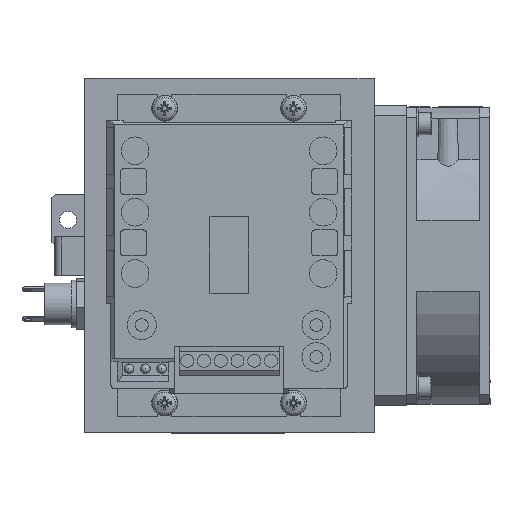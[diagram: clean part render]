
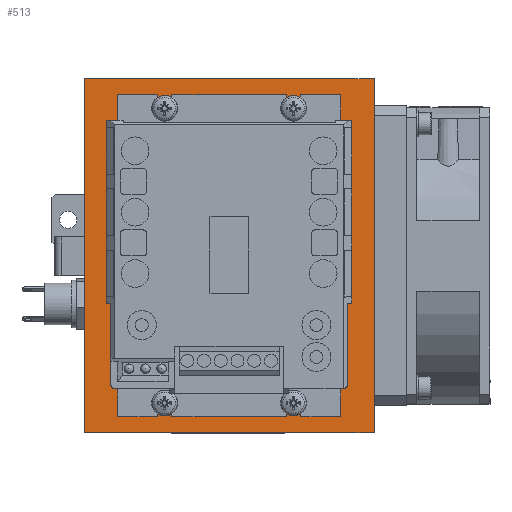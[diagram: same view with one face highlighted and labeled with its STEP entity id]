
A CAD part, top view. The second image highlights one B-rep face of the part: STEP entity #513.
In plain terms, the highlighted planar face has unit normal (0, 0, 1).
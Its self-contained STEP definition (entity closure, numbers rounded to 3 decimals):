
#264=CARTESIAN_POINT('',(0.,-55.,105.));
#265=DIRECTION('',(0.0,0.0,1.0));
#266=DIRECTION('',(1.0,0.0,0.0));
#267=AXIS2_PLACEMENT_3D('',#264,#265,#266);
#268=PLANE('',#267);
#269=CARTESIAN_POINT('',(45.,-55.,105.));
#270=VERTEX_POINT('',#269);
#271=CARTESIAN_POINT('',(45.,55.,105.));
#272=VERTEX_POINT('',#271);
#273=CARTESIAN_POINT('',(45.,-55.,105.));
#274=DIRECTION('',(0.0,1.0,0.0));
#275=VECTOR('',#274,110.0);
#276=LINE('',#273,#275);
#277=EDGE_CURVE('',#270,#272,#276,.T.);
#278=ORIENTED_EDGE('',*,*,#277,.T.);
#279=CARTESIAN_POINT('',(-45.,55.,105.));
#280=VERTEX_POINT('',#279);
#281=CARTESIAN_POINT('',(45.,55.,105.));
#282=DIRECTION('',(-1.0,0.0,0.0));
#283=VECTOR('',#282,90.0);
#284=LINE('',#281,#283);
#285=EDGE_CURVE('',#272,#280,#284,.T.);
#286=ORIENTED_EDGE('',*,*,#285,.T.);
#287=CARTESIAN_POINT('',(-45.,-55.,105.));
#288=VERTEX_POINT('',#287);
#289=CARTESIAN_POINT('',(-45.,55.,105.));
#290=DIRECTION('',(0.0,-1.0,0.0));
#291=VECTOR('',#290,110.0);
#292=LINE('',#289,#291);
#293=EDGE_CURVE('',#280,#288,#292,.T.);
#294=ORIENTED_EDGE('',*,*,#293,.T.);
#295=CARTESIAN_POINT('',(45.,-55.,105.));
#296=DIRECTION('',(-1.0,0.0,0.0));
#297=VECTOR('',#296,90.0);
#298=LINE('',#295,#297);
#299=EDGE_CURVE('',#270,#288,#298,.T.);
#300=ORIENTED_EDGE('',*,*,#299,.F.);
#301=EDGE_LOOP('',(#278,#286,#294,#300));
#302=FACE_OUTER_BOUND('',#301,.T.);
#303=CARTESIAN_POINT('',(-17.75,-50.,105.));
#304=VERTEX_POINT('',#303);
#305=CARTESIAN_POINT('',(-17.75,-45.,105.));
#306=VERTEX_POINT('',#305);
#307=CARTESIAN_POINT('',(-17.75,-50.,105.));
#308=DIRECTION('',(0.0,1.0,0.0));
#309=VECTOR('',#308,5.0);
#310=LINE('',#307,#309);
#311=EDGE_CURVE('',#304,#306,#310,.T.);
#312=ORIENTED_EDGE('',*,*,#311,.T.);
#313=CARTESIAN_POINT('',(-22.25,-45.,105.));
#314=VERTEX_POINT('',#313);
#315=CARTESIAN_POINT('',(-20.,-45.,105.));
#316=DIRECTION('',(0.0,0.0,1.0));
#317=DIRECTION('',(-1.0,0.0,0.0));
#318=AXIS2_PLACEMENT_3D('',#315,#316,#317);
#319=CIRCLE('',#318,2.25);
#320=EDGE_CURVE('',#306,#314,#319,.T.);
#321=ORIENTED_EDGE('',*,*,#320,.T.);
#322=CARTESIAN_POINT('',(-22.25,-50.,105.));
#323=VERTEX_POINT('',#322);
#324=CARTESIAN_POINT('',(-22.25,-45.,105.));
#325=DIRECTION('',(0.0,-1.0,0.0));
#326=VECTOR('',#325,5.0);
#327=LINE('',#324,#326);
#328=EDGE_CURVE('',#314,#323,#327,.T.);
#329=ORIENTED_EDGE('',*,*,#328,.T.);
#330=CARTESIAN_POINT('',(-31.227,-50.,105.));
#331=VERTEX_POINT('',#330);
#332=CARTESIAN_POINT('',(-22.25,-50.,105.));
#333=DIRECTION('',(-1.0,0.0,0.0));
#334=VECTOR('',#333,8.977);
#335=LINE('',#332,#334);
#336=EDGE_CURVE('',#323,#331,#335,.T.);
#337=ORIENTED_EDGE('',*,*,#336,.T.);
#338=CARTESIAN_POINT('',(-31.227,50.,105.));
#339=VERTEX_POINT('',#338);
#340=CARTESIAN_POINT('',(-31.227,-50.,105.));
#341=DIRECTION('',(0.0,1.0,0.0));
#342=VECTOR('',#341,100.0);
#343=LINE('',#340,#342);
#344=EDGE_CURVE('',#331,#339,#343,.T.);
#345=ORIENTED_EDGE('',*,*,#344,.T.);
#346=CARTESIAN_POINT('',(-22.25,50.,105.));
#347=VERTEX_POINT('',#346);
#348=CARTESIAN_POINT('',(-31.227,50.,105.));
#349=DIRECTION('',(1.0,0.0,0.0));
#350=VECTOR('',#349,8.977);
#351=LINE('',#348,#350);
#352=EDGE_CURVE('',#339,#347,#351,.T.);
#353=ORIENTED_EDGE('',*,*,#352,.T.);
#354=CARTESIAN_POINT('',(-22.25,45.,105.));
#355=VERTEX_POINT('',#354);
#356=CARTESIAN_POINT('',(-22.25,50.,105.));
#357=DIRECTION('',(0.0,-1.0,0.0));
#358=VECTOR('',#357,5.0);
#359=LINE('',#356,#358);
#360=EDGE_CURVE('',#347,#355,#359,.T.);
#361=ORIENTED_EDGE('',*,*,#360,.T.);
#362=CARTESIAN_POINT('',(-17.75,45.,105.));
#363=VERTEX_POINT('',#362);
#364=CARTESIAN_POINT('',(-20.,45.,105.));
#365=DIRECTION('',(0.0,0.0,1.0));
#366=DIRECTION('',(-1.0,0.0,0.0));
#367=AXIS2_PLACEMENT_3D('',#364,#365,#366);
#368=CIRCLE('',#367,2.25);
#369=EDGE_CURVE('',#355,#363,#368,.T.);
#370=ORIENTED_EDGE('',*,*,#369,.T.);
#371=CARTESIAN_POINT('',(-17.75,50.,105.));
#372=VERTEX_POINT('',#371);
#373=CARTESIAN_POINT('',(-17.75,45.,105.));
#374=DIRECTION('',(0.0,1.0,0.0));
#375=VECTOR('',#374,5.0);
#376=LINE('',#373,#375);
#377=EDGE_CURVE('',#363,#372,#376,.T.);
#378=ORIENTED_EDGE('',*,*,#377,.T.);
#379=CARTESIAN_POINT('',(17.75,50.,105.));
#380=VERTEX_POINT('',#379);
#381=CARTESIAN_POINT('',(-17.75,50.,105.));
#382=DIRECTION('',(1.0,0.0,0.0));
#383=VECTOR('',#382,35.5);
#384=LINE('',#381,#383);
#385=EDGE_CURVE('',#372,#380,#384,.T.);
#386=ORIENTED_EDGE('',*,*,#385,.T.);
#387=CARTESIAN_POINT('',(17.75,45.,105.));
#388=VERTEX_POINT('',#387);
#389=CARTESIAN_POINT('',(17.75,50.,105.));
#390=DIRECTION('',(0.0,-1.0,0.0));
#391=VECTOR('',#390,5.0);
#392=LINE('',#389,#391);
#393=EDGE_CURVE('',#380,#388,#392,.T.);
#394=ORIENTED_EDGE('',*,*,#393,.T.);
#395=CARTESIAN_POINT('',(22.25,45.,105.));
#396=VERTEX_POINT('',#395);
#397=CARTESIAN_POINT('',(20.,45.,105.));
#398=DIRECTION('',(0.0,0.0,1.0));
#399=DIRECTION('',(1.0,0.0,0.0));
#400=AXIS2_PLACEMENT_3D('',#397,#398,#399);
#401=CIRCLE('',#400,2.25);
#402=EDGE_CURVE('',#388,#396,#401,.T.);
#403=ORIENTED_EDGE('',*,*,#402,.T.);
#404=CARTESIAN_POINT('',(22.25,50.,105.));
#405=VERTEX_POINT('',#404);
#406=CARTESIAN_POINT('',(22.25,45.,105.));
#407=DIRECTION('',(0.0,1.0,0.0));
#408=VECTOR('',#407,5.0);
#409=LINE('',#406,#408);
#410=EDGE_CURVE('',#396,#405,#409,.T.);
#411=ORIENTED_EDGE('',*,*,#410,.T.);
#412=CARTESIAN_POINT('',(31.227,50.,105.));
#413=VERTEX_POINT('',#412);
#414=CARTESIAN_POINT('',(22.25,50.,105.));
#415=DIRECTION('',(1.0,0.0,0.0));
#416=VECTOR('',#415,8.977);
#417=LINE('',#414,#416);
#418=EDGE_CURVE('',#405,#413,#417,.T.);
#419=ORIENTED_EDGE('',*,*,#418,.T.);
#420=CARTESIAN_POINT('',(31.227,-50.,105.));
#421=VERTEX_POINT('',#420);
#422=CARTESIAN_POINT('',(31.227,50.,105.));
#423=DIRECTION('',(0.0,-1.0,0.0));
#424=VECTOR('',#423,100.0);
#425=LINE('',#422,#424);
#426=EDGE_CURVE('',#413,#421,#425,.T.);
#427=ORIENTED_EDGE('',*,*,#426,.T.);
#428=CARTESIAN_POINT('',(22.25,-50.,105.));
#429=VERTEX_POINT('',#428);
#430=CARTESIAN_POINT('',(31.227,-50.,105.));
#431=DIRECTION('',(-1.0,0.0,0.0));
#432=VECTOR('',#431,8.977);
#433=LINE('',#430,#432);
#434=EDGE_CURVE('',#421,#429,#433,.T.);
#435=ORIENTED_EDGE('',*,*,#434,.T.);
#436=CARTESIAN_POINT('',(22.25,-45.,105.));
#437=VERTEX_POINT('',#436);
#438=CARTESIAN_POINT('',(22.25,-50.,105.));
#439=DIRECTION('',(0.0,1.0,0.0));
#440=VECTOR('',#439,5.0);
#441=LINE('',#438,#440);
#442=EDGE_CURVE('',#429,#437,#441,.T.);
#443=ORIENTED_EDGE('',*,*,#442,.T.);
#444=CARTESIAN_POINT('',(17.75,-45.,105.));
#445=VERTEX_POINT('',#444);
#446=CARTESIAN_POINT('',(20.,-45.,105.));
#447=DIRECTION('',(0.0,0.0,1.0));
#448=DIRECTION('',(1.0,0.0,0.0));
#449=AXIS2_PLACEMENT_3D('',#446,#447,#448);
#450=CIRCLE('',#449,2.25);
#451=EDGE_CURVE('',#437,#445,#450,.T.);
#452=ORIENTED_EDGE('',*,*,#451,.T.);
#453=CARTESIAN_POINT('',(17.75,-50.,105.));
#454=VERTEX_POINT('',#453);
#455=CARTESIAN_POINT('',(17.75,-45.,105.));
#456=DIRECTION('',(0.0,-1.0,0.0));
#457=VECTOR('',#456,5.0);
#458=LINE('',#455,#457);
#459=EDGE_CURVE('',#445,#454,#458,.T.);
#460=ORIENTED_EDGE('',*,*,#459,.T.);
#461=CARTESIAN_POINT('',(17.75,-50.,105.));
#462=DIRECTION('',(-1.0,0.0,0.0));
#463=VECTOR('',#462,35.5);
#464=LINE('',#461,#463);
#465=EDGE_CURVE('',#454,#304,#464,.T.);
#466=ORIENTED_EDGE('',*,*,#465,.T.);
#467=EDGE_LOOP('',(#312,#321,#329,#337,#345,#353,#361,#370,#378,#386,#394,#403,#411,#419,#427,#435,#443,#452,#460,#466));
#468=FACE_BOUND('',#467,.T.);
#469=CARTESIAN_POINT('',(-20.,-47.75,105.));
#470=VERTEX_POINT('',#469);
#471=CARTESIAN_POINT('',(-20.,-45.75,105.));
#472=DIRECTION('',(0.0,0.0,1.0));
#473=DIRECTION('',(0.0,1.0,0.0));
#474=AXIS2_PLACEMENT_3D('',#471,#472,#473);
#475=CIRCLE('',#474,2.);
#476=EDGE_CURVE('',#470,#470,#475,.T.);
#477=ORIENTED_EDGE('',*,*,#476,.F.);
#478=EDGE_LOOP('',(#477));
#479=FACE_BOUND('',#478,.T.);
#480=CARTESIAN_POINT('',(20.,-47.75,105.));
#481=VERTEX_POINT('',#480);
#482=CARTESIAN_POINT('',(20.,-45.75,105.));
#483=DIRECTION('',(0.0,0.0,1.0));
#484=DIRECTION('',(0.0,1.0,0.0));
#485=AXIS2_PLACEMENT_3D('',#482,#483,#484);
#486=CIRCLE('',#485,2.);
#487=EDGE_CURVE('',#481,#481,#486,.T.);
#488=ORIENTED_EDGE('',*,*,#487,.F.);
#489=EDGE_LOOP('',(#488));
#490=FACE_BOUND('',#489,.T.);
#491=CARTESIAN_POINT('',(-20.,43.75,105.));
#492=VERTEX_POINT('',#491);
#493=CARTESIAN_POINT('',(-20.,45.75,105.));
#494=DIRECTION('',(0.0,0.0,1.0));
#495=DIRECTION('',(0.0,1.0,0.0));
#496=AXIS2_PLACEMENT_3D('',#493,#494,#495);
#497=CIRCLE('',#496,2.);
#498=EDGE_CURVE('',#492,#492,#497,.T.);
#499=ORIENTED_EDGE('',*,*,#498,.F.);
#500=EDGE_LOOP('',(#499));
#501=FACE_BOUND('',#500,.T.);
#502=CARTESIAN_POINT('',(20.,43.75,105.));
#503=VERTEX_POINT('',#502);
#504=CARTESIAN_POINT('',(20.,45.75,105.));
#505=DIRECTION('',(0.0,0.0,1.0));
#506=DIRECTION('',(0.0,1.0,0.0));
#507=AXIS2_PLACEMENT_3D('',#504,#505,#506);
#508=CIRCLE('',#507,2.);
#509=EDGE_CURVE('',#503,#503,#508,.T.);
#510=ORIENTED_EDGE('',*,*,#509,.F.);
#511=EDGE_LOOP('',(#510));
#512=FACE_BOUND('',#511,.T.);
#513=ADVANCED_FACE('',(#302,#468,#479,#490,#501,#512),#268,.T.);
